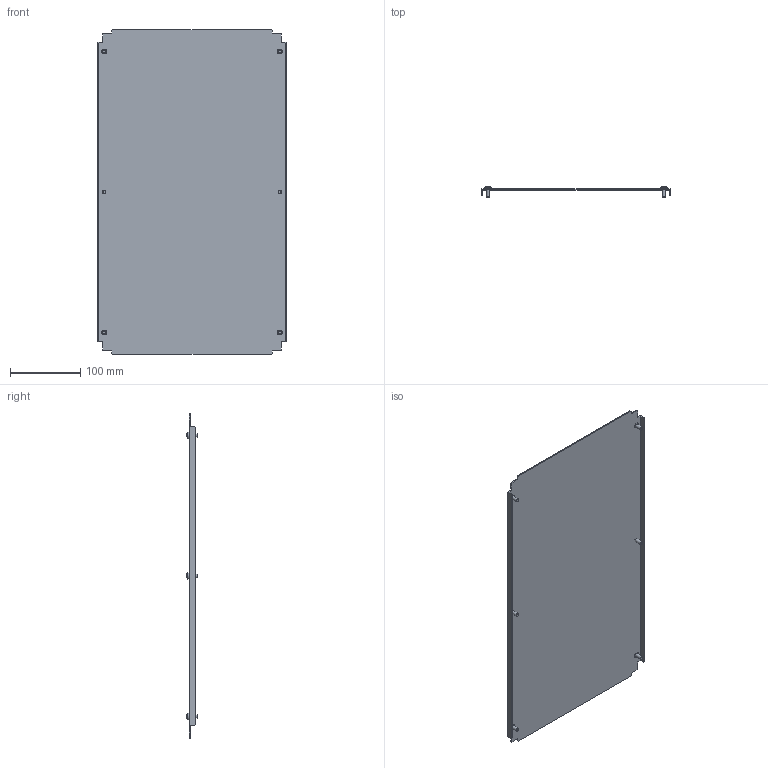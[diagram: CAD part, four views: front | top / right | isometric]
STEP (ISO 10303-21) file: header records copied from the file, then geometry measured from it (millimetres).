
FILE_DESCRIPTION (( 'STEP AP203' ), '1' );
FILE_NAME ('R5N1BP46.STEP', '2025-02-21T13:50:48', ( '' ), ( '' ), 'SwSTEP 2.0', 'SolidWorks 2022', '' );
FILE_SCHEMA (( 'CONFIG_CONTROL_DESIGN' ));
Length unit declared in the file: millimetre
Products named in the file (3): RB.1923.00.00.0_-05; M5x12 DIN 7500 C Torx Zinc_stright; R5N1BP46
Assembly tree (7 placements, depth 2):
  R5N1BP46
    RB.1923.00.00.0_-05
    M5x12 DIN 7500 C Torx Zinc_stright  x6
Bounding box: 268 x 15.56 x 462 mm (x, y, z)
Volume: 196456.8 mm3; surface area: 263461.9 mm2
Topology: 7 solids, 7 shells, 158 faces, 360 edges, 222 vertices
Faces by surface type: plane 102, cylinder 20, torus 12, cone 12, sphere 6, bspline 6
Full cylindrical faces by diameter (mm): 5 x6, 9.5 x6
Entity records: 3017 total; most frequent: CARTESIAN_POINT 626, ORIENTED_EDGE 400, DIRECTION 396, EDGE_CURVE 200, VECTOR 164, LINE 164, VERTEX_POINT 134, AXIS2_PLACEMENT_3D 116
